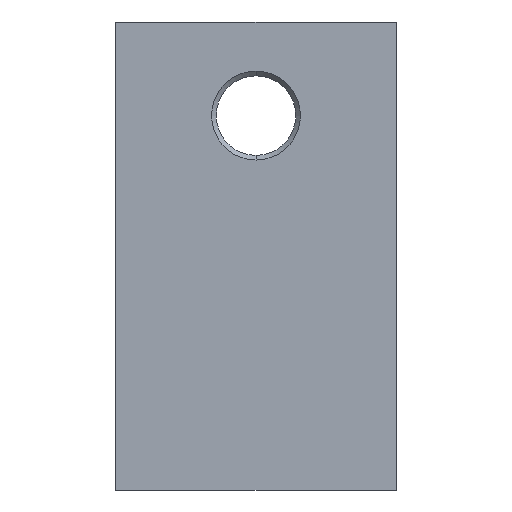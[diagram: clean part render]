
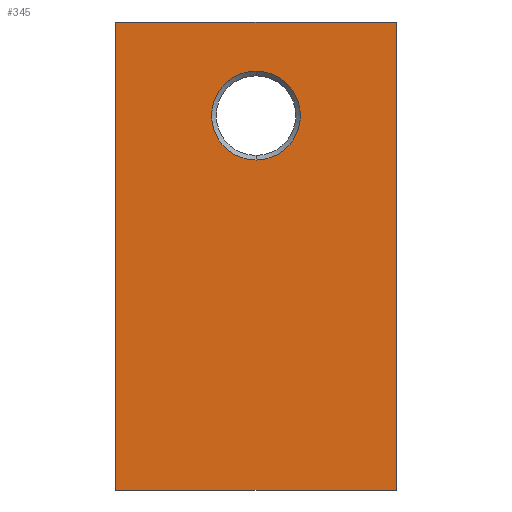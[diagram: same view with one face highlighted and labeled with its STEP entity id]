
A CAD part, front view. The second image highlights one B-rep face of the part: STEP entity #345.
In plain terms, the highlighted planar face has unit normal (0, -1, 0).
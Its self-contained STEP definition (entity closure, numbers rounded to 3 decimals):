
#6 = VERTEX_POINT ( 'NONE', #296 ) ;
#12 = CARTESIAN_POINT ( 'NONE',  ( 0., 0., 10.25 ) ) ;
#24 = FACE_OUTER_BOUND ( 'NONE', #338, .T. ) ;
#29 = FACE_BOUND ( 'NONE', #1123, .T. ) ;
#47 = CARTESIAN_POINT ( 'NONE',  ( 15., 0., 25. ) ) ;
#90 = VERTEX_POINT ( 'NONE', #12 ) ;
#104 = DIRECTION ( 'NONE',  ( 0., 0., 1. ) ) ;
#176 = VECTOR ( 'NONE', #211, 1000. ) ;
#211 = DIRECTION ( 'NONE',  ( 0., 0., -1. ) ) ;
#221 = DIRECTION ( 'NONE',  ( -1., 0., 0. ) ) ;
#232 = EDGE_CURVE ( 'NONE', #6, #576, #667, .T. ) ;
#256 = CARTESIAN_POINT ( 'NONE',  ( 0., 0., 19.75 ) ) ;
#257 = EDGE_CURVE ( 'NONE', #6, #906, #1258, .T. ) ;
#271 = LINE ( 'NONE', #591, #176 ) ;
#276 = CARTESIAN_POINT ( 'NONE',  ( 0., 0., 15. ) ) ;
#296 = CARTESIAN_POINT ( 'NONE',  ( 15., 0., 25. ) ) ;
#306 = CARTESIAN_POINT ( 'NONE',  ( 15., 0., 25. ) ) ;
#335 = ORIENTED_EDGE ( 'NONE', *, *, #1134, .T. ) ;
#338 = EDGE_LOOP ( 'NONE', ( #632, #1140, #823, #487 ) ) ;
#345 = ADVANCED_FACE ( 'NONE', ( #29, #24 ), #391, .F. ) ;
#361 = CIRCLE ( 'NONE', #393, 4.75 ) ;
#372 = DIRECTION ( 'NONE',  ( 0., 0., 1. ) ) ;
#391 = PLANE ( 'NONE',  #698 ) ;
#393 = AXIS2_PLACEMENT_3D ( 'NONE', #276, #939, #372 ) ;
#418 = VECTOR ( 'NONE', #1191, 1000. ) ;
#472 = EDGE_CURVE ( 'NONE', #906, #1111, #936, .T. ) ;
#487 = ORIENTED_EDGE ( 'NONE', *, *, #232, .T. ) ;
#501 = DIRECTION ( 'NONE',  ( 0., 1., 0. ) ) ;
#518 = CARTESIAN_POINT ( 'NONE',  ( -15., 0., 25. ) ) ;
#542 = CARTESIAN_POINT ( 'NONE',  ( 15., 0., -25. ) ) ;
#565 = CIRCLE ( 'NONE', #1024, 4.75 ) ;
#576 = VERTEX_POINT ( 'NONE', #518 ) ;
#591 = CARTESIAN_POINT ( 'NONE',  ( -15., 0., 25. ) ) ;
#602 = DIRECTION ( 'NONE',  ( 0., 0., -1. ) ) ;
#632 = ORIENTED_EDGE ( 'NONE', *, *, #1234, .T. ) ;
#667 = LINE ( 'NONE', #901, #418 ) ;
#698 = AXIS2_PLACEMENT_3D ( 'NONE', #306, #501, #104 ) ;
#747 = ORIENTED_EDGE ( 'NONE', *, *, #889, .T. ) ;
#790 = CARTESIAN_POINT ( 'NONE',  ( 15., 0., -25. ) ) ;
#823 = ORIENTED_EDGE ( 'NONE', *, *, #257, .F. ) ;
#869 = VERTEX_POINT ( 'NONE', #256 ) ;
#889 = EDGE_CURVE ( 'NONE', #90, #869, #565, .T. ) ;
#901 = CARTESIAN_POINT ( 'NONE',  ( 15., 0., 25. ) ) ;
#906 = VERTEX_POINT ( 'NONE', #542 ) ;
#926 = DIRECTION ( 'NONE',  ( 0., 1., 0. ) ) ;
#936 = LINE ( 'NONE', #790, #1077 ) ;
#939 = DIRECTION ( 'NONE',  ( 0., 1., 0. ) ) ;
#1024 = AXIS2_PLACEMENT_3D ( 'NONE', #1127, #926, #1233 ) ;
#1077 = VECTOR ( 'NONE', #221, 1000. ) ;
#1111 = VERTEX_POINT ( 'NONE', #1131 ) ;
#1123 = EDGE_LOOP ( 'NONE', ( #747, #335 ) ) ;
#1127 = CARTESIAN_POINT ( 'NONE',  ( 0., 0., 15. ) ) ;
#1131 = CARTESIAN_POINT ( 'NONE',  ( -15., 0., -25. ) ) ;
#1134 = EDGE_CURVE ( 'NONE', #869, #90, #361, .T. ) ;
#1140 = ORIENTED_EDGE ( 'NONE', *, *, #472, .F. ) ;
#1156 = VECTOR ( 'NONE', #602, 1000. ) ;
#1191 = DIRECTION ( 'NONE',  ( -1., 0., 0. ) ) ;
#1233 = DIRECTION ( 'NONE',  ( 0., 0., 1. ) ) ;
#1234 = EDGE_CURVE ( 'NONE', #576, #1111, #271, .T. ) ;
#1258 = LINE ( 'NONE', #47, #1156 ) ;
